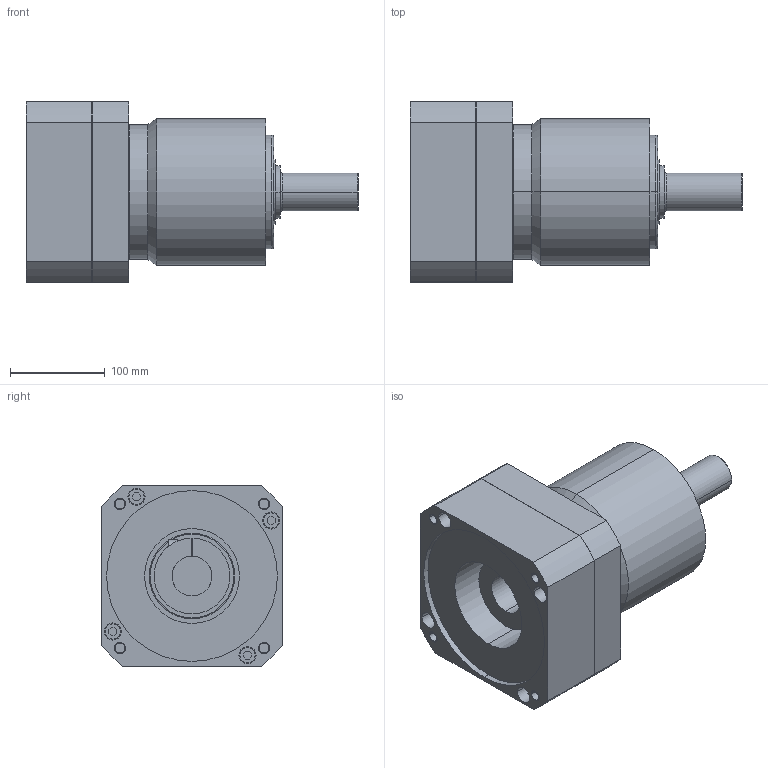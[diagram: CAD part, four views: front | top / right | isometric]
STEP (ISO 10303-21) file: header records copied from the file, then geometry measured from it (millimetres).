
FILE_DESCRIPTION((''),'2;1');
FILE_NAME('MB_PLPE_MASTER','2019-10-08T',('agw'),(''),'CREO PARAMETRIC BY PTC INC, 2015290','CREO PARAMETRIC BY PTC INC, 2015290','');
FILE_SCHEMA(('AUTOMOTIVE_DESIGN { 1 0 10303 214 1 1 1 1 }'));
Length unit declared in the file: millimetre
Products named in the file (1): MB_PLPE_MASTER
Bounding box: 350 x 190 x 190 mm (x, y, z)
Volume: 6075268.8 mm3; surface area: 310783.7 mm2
Topology: 1 solids, 10 shells, 217 faces, 501 edges, 327 vertices
Faces by surface type: cylinder 100, plane 99, torus 10, cone 8
Entity records: 6987 total; most frequent: DIRECTION 1169, CARTESIAN_POINT 1067, ORIENTED_EDGE 962, EDGE_CURVE 499, AXIS2_PLACEMENT_3D 453, VERTEX_POINT 327, VECTOR 263, LINE 263
